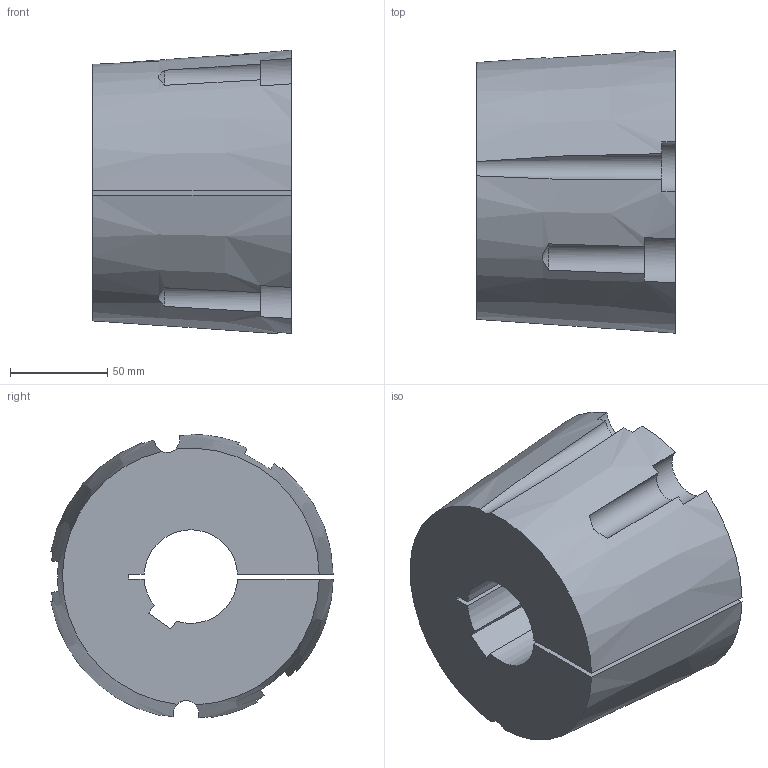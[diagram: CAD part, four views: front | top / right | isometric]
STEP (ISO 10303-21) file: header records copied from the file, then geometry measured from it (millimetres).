
FILE_DESCRIPTION( ( 'STEP AP203' ), '1' );
FILE_NAME( 'D:/export/antriebselemente/spannbuchsen_und_spannsaetze/taper-spannbuchsen_1008_bis_5050/taper-spannbuchsen_62251448Isometric_237.stp', '2018-12-11T11:11:32', ( '' ), ( '' ), ' ', 'PARTsolutions', ' ' );
FILE_SCHEMA( ( 'CONFIG_CONTROL_DESIGN' ) );
Length unit declared in the file: millimetre
Products named in the file (1): _taper-spannbuchsen_62251448
Bounding box: 102 x 144.84 x 145.4 mm (x, y, z)
Volume: 1299182 mm3; surface area: 100263.4 mm2
Topology: 1 solids, 1 shells, 34 faces, 96 edges, 64 vertices
Faces by surface type: plane 15, cylinder 13, cone 6
Entity records: 1310 total; most frequent: CARTESIAN_POINT 386, ORIENTED_EDGE 192, DIRECTION 186, EDGE_CURVE 96, AXIS2_PLACEMENT_3D 80, VERTEX_POINT 64, CIRCLE 45, ADVANCED_FACE 34
